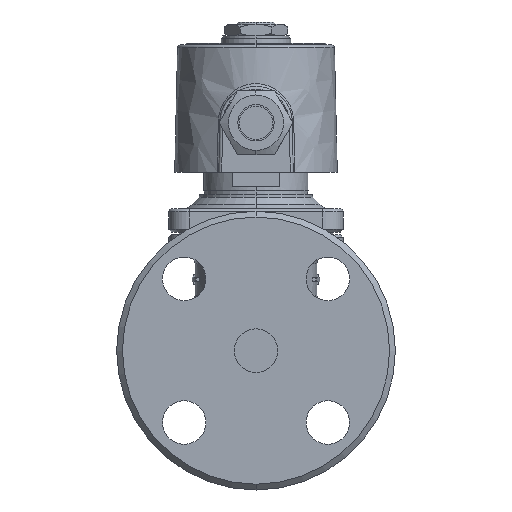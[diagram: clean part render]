
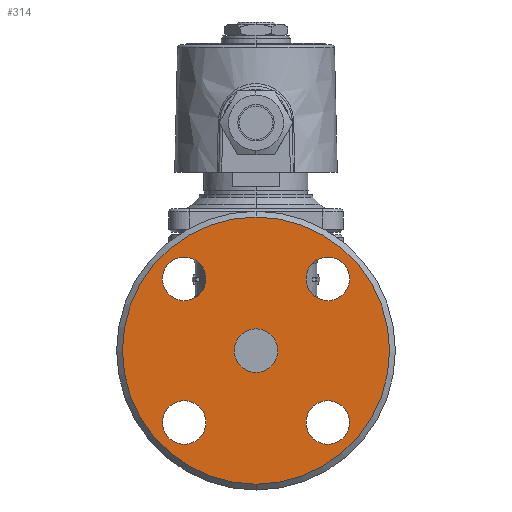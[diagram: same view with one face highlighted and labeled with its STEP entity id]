
A CAD part, left-side view. The second image highlights one B-rep face of the part: STEP entity #314.
In plain terms, the highlighted planar face has unit normal (-1, 0, 0).
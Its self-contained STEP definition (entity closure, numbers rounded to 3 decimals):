
#314=ADVANCED_FACE('',(#1542,#1543,#1544,#1545,#1546,#1547),#1541,.F.);
#1541=PLANE('',#5899);
#1542=FACE_OUTER_BOUND('',#5900,.T.);
#1543=FACE_BOUND('',#5901,.T.);
#1544=FACE_BOUND('',#5902,.T.);
#1545=FACE_BOUND('',#5903,.T.);
#1546=FACE_BOUND('',#5904,.T.);
#1547=FACE_BOUND('',#5905,.T.);
#5896=CARTESIAN_POINT('',(-60.,-89.674,102.));
#5897=DIRECTION('',(1.,0.,0.));
#5898=DIRECTION('',(0.,0.,-1.));
#5899=AXIS2_PLACEMENT_3D('',#5896,#5897,#5898);
#5900=EDGE_LOOP('',(#10037,#10038));
#5901=EDGE_LOOP('',(#10039,#10040));
#5902=EDGE_LOOP('',(#10041,#10042));
#5903=EDGE_LOOP('',(#10043,#10044));
#5904=EDGE_LOOP('',(#10045,#10046));
#5905=EDGE_LOOP('',(#10047,#10048));
#10037=ORIENTED_EDGE('',*,*,#11805,.T.);
#10038=ORIENTED_EDGE('',*,*,#11806,.T.);
#10039=ORIENTED_EDGE('',*,*,#11807,.T.);
#10040=ORIENTED_EDGE('',*,*,#11808,.T.);
#10041=ORIENTED_EDGE('',*,*,#11809,.T.);
#10042=ORIENTED_EDGE('',*,*,#11810,.T.);
#10043=ORIENTED_EDGE('',*,*,#11811,.T.);
#10044=ORIENTED_EDGE('',*,*,#11812,.T.);
#10045=ORIENTED_EDGE('',*,*,#11813,.T.);
#10046=ORIENTED_EDGE('',*,*,#11814,.T.);
#10047=ORIENTED_EDGE('',*,*,#11815,.T.);
#10048=ORIENTED_EDGE('',*,*,#11816,.T.);
#11805=EDGE_CURVE('',#14283,#14284,#14285,.T.);
#11806=EDGE_CURVE('',#14284,#14283,#14291,.T.);
#11807=EDGE_CURVE('',#14297,#14298,#14299,.T.);
#11808=EDGE_CURVE('',#14298,#14297,#14305,.T.);
#11809=EDGE_CURVE('',#14311,#14312,#14313,.T.);
#11810=EDGE_CURVE('',#14312,#14311,#14319,.T.);
#11811=EDGE_CURVE('',#14325,#14326,#14327,.T.);
#11812=EDGE_CURVE('',#14326,#14325,#14333,.T.);
#11813=EDGE_CURVE('',#14339,#14340,#14341,.T.);
#11814=EDGE_CURVE('',#14340,#14339,#14347,.T.);
#11815=EDGE_CURVE('',#14353,#14354,#14355,.T.);
#11816=EDGE_CURVE('',#14354,#14353,#14361,.T.);
#14283=VERTEX_POINT('',#20405);
#14284=VERTEX_POINT('',#20406);
#14285=CIRCLE('',#20410,46.);
#14291=CIRCLE('',#20414,46.);
#14297=VERTEX_POINT('',#20415);
#14298=VERTEX_POINT('',#20416);
#14299=CIRCLE('',#20420,7.5);
#14305=CIRCLE('',#20424,7.5);
#14311=VERTEX_POINT('',#20425);
#14312=VERTEX_POINT('',#20426);
#14313=CIRCLE('',#20430,7.5);
#14319=CIRCLE('',#20434,7.5);
#14325=VERTEX_POINT('',#20435);
#14326=VERTEX_POINT('',#20436);
#14327=CIRCLE('',#20440,7.5);
#14333=CIRCLE('',#20444,7.5);
#14339=VERTEX_POINT('',#20445);
#14340=VERTEX_POINT('',#20446);
#14341=CIRCLE('',#20450,7.5);
#14347=CIRCLE('',#20454,7.5);
#14353=VERTEX_POINT('',#20455);
#14354=VERTEX_POINT('',#20456);
#14355=CIRCLE('',#20460,7.5);
#14361=CIRCLE('',#20464,7.5);
#20405=CARTESIAN_POINT('',(-60.,0.,-46.));
#20406=CARTESIAN_POINT('',(-60.,0.,46.));
#20407=CARTESIAN_POINT('',(-60.,0.,0.));
#20408=DIRECTION('',(-1.,0.,0.));
#20409=DIRECTION('',(0.,0.,-1.));
#20410=AXIS2_PLACEMENT_3D('',#20407,#20408,#20409);
#20411=CARTESIAN_POINT('',(-60.,0.,0.));
#20412=DIRECTION('',(-1.,0.,0.));
#20413=DIRECTION('',(0.,0.,-1.));
#20414=AXIS2_PLACEMENT_3D('',#20411,#20412,#20413);
#20415=CARTESIAN_POINT('',(-60.,0.,7.5));
#20416=CARTESIAN_POINT('',(-60.,0.,-7.5));
#20417=CARTESIAN_POINT('',(-60.,0.,0.));
#20418=DIRECTION('',(1.,0.,0.));
#20419=DIRECTION('',(0.,0.,1.));
#20420=AXIS2_PLACEMENT_3D('',#20417,#20418,#20419);
#20421=CARTESIAN_POINT('',(-60.,0.,0.));
#20422=DIRECTION('',(1.,0.,0.));
#20423=DIRECTION('',(0.,0.,1.));
#20424=AXIS2_PLACEMENT_3D('',#20421,#20422,#20423);
#20425=CARTESIAN_POINT('',(-60.,24.749,32.249));
#20426=CARTESIAN_POINT('',(-60.,24.749,17.249));
#20427=CARTESIAN_POINT('',(-60.,24.749,24.749));
#20428=DIRECTION('',(1.,0.,0.));
#20429=DIRECTION('',(0.,0.,1.));
#20430=AXIS2_PLACEMENT_3D('',#20427,#20428,#20429);
#20431=CARTESIAN_POINT('',(-60.,24.749,24.749));
#20432=DIRECTION('',(1.,0.,0.));
#20433=DIRECTION('',(0.,0.,1.));
#20434=AXIS2_PLACEMENT_3D('',#20431,#20432,#20433);
#20435=CARTESIAN_POINT('',(-60.,-24.749,-17.249));
#20436=CARTESIAN_POINT('',(-60.,-24.749,-32.249));
#20437=CARTESIAN_POINT('',(-60.,-24.749,-24.749));
#20438=DIRECTION('',(1.,0.,0.));
#20439=DIRECTION('',(0.,0.,1.));
#20440=AXIS2_PLACEMENT_3D('',#20437,#20438,#20439);
#20441=CARTESIAN_POINT('',(-60.,-24.749,-24.749));
#20442=DIRECTION('',(1.,0.,0.));
#20443=DIRECTION('',(0.,0.,1.));
#20444=AXIS2_PLACEMENT_3D('',#20441,#20442,#20443);
#20445=CARTESIAN_POINT('',(-60.,-24.749,32.249));
#20446=CARTESIAN_POINT('',(-60.,-24.749,17.249));
#20447=CARTESIAN_POINT('',(-60.,-24.749,24.749));
#20448=DIRECTION('',(1.,0.,0.));
#20449=DIRECTION('',(0.,0.,1.));
#20450=AXIS2_PLACEMENT_3D('',#20447,#20448,#20449);
#20451=CARTESIAN_POINT('',(-60.,-24.749,24.749));
#20452=DIRECTION('',(1.,0.,0.));
#20453=DIRECTION('',(0.,0.,1.));
#20454=AXIS2_PLACEMENT_3D('',#20451,#20452,#20453);
#20455=CARTESIAN_POINT('',(-60.,24.749,-17.249));
#20456=CARTESIAN_POINT('',(-60.,24.749,-32.249));
#20457=CARTESIAN_POINT('',(-60.,24.749,-24.749));
#20458=DIRECTION('',(1.,0.,0.));
#20459=DIRECTION('',(0.,0.,1.));
#20460=AXIS2_PLACEMENT_3D('',#20457,#20458,#20459);
#20461=CARTESIAN_POINT('',(-60.,24.749,-24.749));
#20462=DIRECTION('',(1.,0.,0.));
#20463=DIRECTION('',(0.,0.,1.));
#20464=AXIS2_PLACEMENT_3D('',#20461,#20462,#20463);
